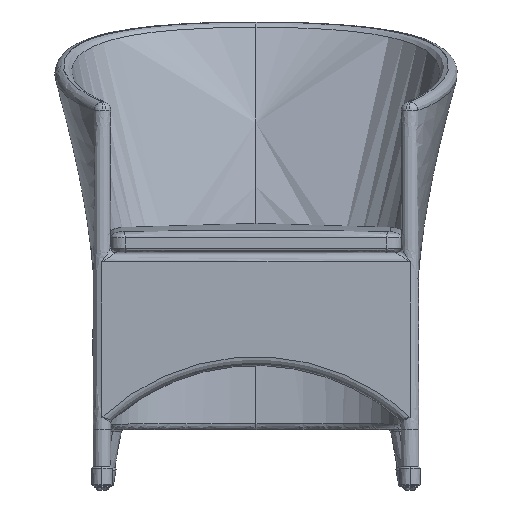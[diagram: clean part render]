
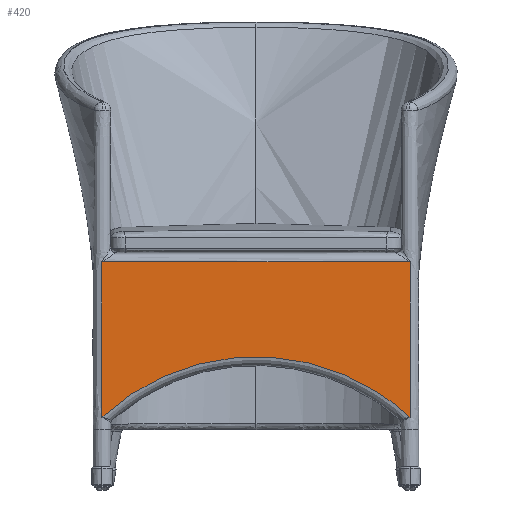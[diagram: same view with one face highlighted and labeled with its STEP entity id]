
A CAD part, front view. The second image highlights one B-rep face of the part: STEP entity #420.
In plain terms, the highlighted planar face has unit normal (0, -1, 0).
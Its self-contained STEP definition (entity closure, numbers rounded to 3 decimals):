
#49=(
BOUNDED_CURVE()
B_SPLINE_CURVE(2,(#32292,#32293,#32294,#32295,#32296),.UNSPECIFIED.,.F.,
 .F.)
B_SPLINE_CURVE_WITH_KNOTS((3,2,3),(0.,285.979,571.959),
 .UNSPECIFIED.)
CURVE()
GEOMETRIC_REPRESENTATION_ITEM()
RATIONAL_B_SPLINE_CURVE((1.,0.931,1.,0.931,
1.))
REPRESENTATION_ITEM('')
);
#420=ADVANCED_FACE('',(#588),#2501,.T.);
#588=FACE_OUTER_BOUND('',#756,.T.);
#756=EDGE_LOOP('',(#1030,#1031,#1032,#1033));
#1030=ORIENTED_EDGE('',*,*,#1751,.F.);
#1031=ORIENTED_EDGE('',*,*,#1752,.T.);
#1032=ORIENTED_EDGE('',*,*,#1753,.T.);
#1033=ORIENTED_EDGE('',*,*,#1758,.T.);
#1751=EDGE_CURVE('',#2332,#2333,#2130,.T.);
#1752=EDGE_CURVE('',#2332,#2354,#2131,.T.);
#1753=EDGE_CURVE('',#2354,#2355,#2132,.T.);
#1758=EDGE_CURVE('',#2355,#2333,#49,.T.);
#2130=B_SPLINE_CURVE_WITH_KNOTS('',1,(#32134,#32135),.UNSPECIFIED.,.F.,
 .F.,(2,2),(0.,262.149),.UNSPECIFIED.);
#2131=B_SPLINE_CURVE_WITH_KNOTS('',1,(#32136,#32137),.UNSPECIFIED.,.F.,
 .F.,(2,2),(0.,520.),.UNSPECIFIED.);
#2132=B_SPLINE_CURVE_WITH_KNOTS('',1,(#32138,#32139),.UNSPECIFIED.,.F.,
 .F.,(2,2),(0.,262.149),.UNSPECIFIED.);
#2332=VERTEX_POINT('',#30486);
#2333=VERTEX_POINT('',#30487);
#2354=VERTEX_POINT('',#30508);
#2355=VERTEX_POINT('',#30509);
#2501=PLANE('',#2549);
#2549=AXIS2_PLACEMENT_3D('',#10735,#2581,$);
#2581=DIRECTION('',(0.,-1.,0.));
#10735=CARTESIAN_POINT('',(-312.012,-610.,411.227));
#30486=CARTESIAN_POINT('',(260.,-610.,385.));
#30487=CARTESIAN_POINT('',(260.,-610.,122.851));
#30508=CARTESIAN_POINT('',(-260.,-610.,385.));
#30509=CARTESIAN_POINT('',(-260.,-610.,122.851));
#32134=CARTESIAN_POINT('',(260.,-610.,385.));
#32135=CARTESIAN_POINT('',(260.,-610.,122.851));
#32136=CARTESIAN_POINT('',(260.,-610.,385.));
#32137=CARTESIAN_POINT('',(-260.,-610.,385.));
#32138=CARTESIAN_POINT('',(-260.,-610.,385.));
#32139=CARTESIAN_POINT('',(-260.,-610.,122.851));
#32292=CARTESIAN_POINT('',(-260.,-610.,122.851));
#32293=CARTESIAN_POINT('',(-150.066,-610.,225.));
#32294=CARTESIAN_POINT('',(0.,-610.,225.));
#32295=CARTESIAN_POINT('',(150.066,-610.,225.));
#32296=CARTESIAN_POINT('',(260.,-610.,122.851));
